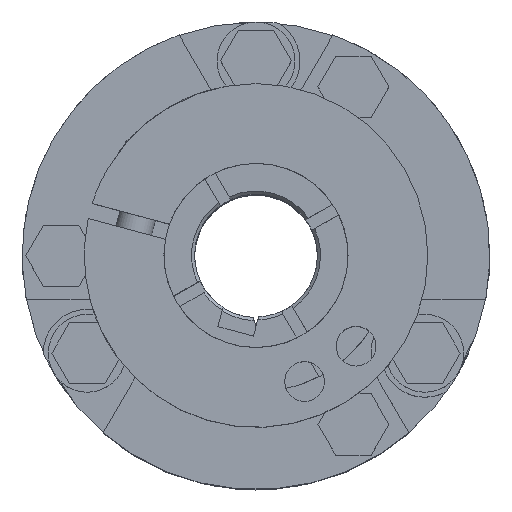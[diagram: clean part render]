
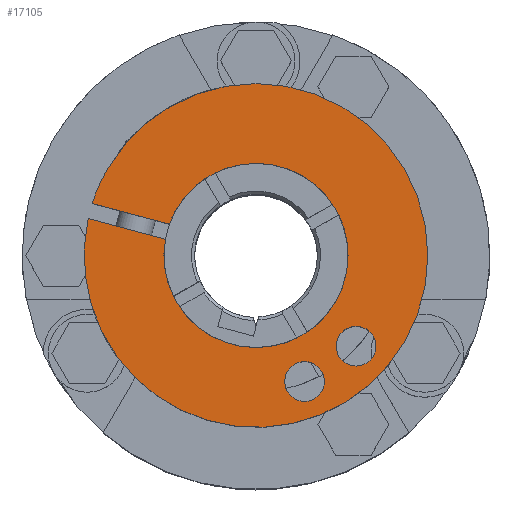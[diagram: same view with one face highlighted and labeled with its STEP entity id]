
A CAD part, top view. The second image highlights one B-rep face of the part: STEP entity #17105.
In plain terms, the highlighted planar face has unit normal (0, 0, 1).
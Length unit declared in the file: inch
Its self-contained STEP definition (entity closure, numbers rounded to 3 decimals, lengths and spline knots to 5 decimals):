
#1784 = CIRCLE ( 'NONE', #5146, 0.1275 ) ;
#1786 = CIRCLE ( 'NONE', #5155, 0.1275 ) ;
#1790 = CIRCLE ( 'NONE', #5177, 0.5905 ) ;
#1792 = CIRCLE ( 'NONE', #5185, 0.5905 ) ;
#1796 = CIRCLE ( 'NONE', #5191, 1.1025 ) ;
#1798 = CIRCLE ( 'NONE', #5190, 1.1025 ) ;
#1800 = CIRCLE ( 'NONE', #5200, 1.1025 ) ;
#1805 = CIRCLE ( 'NONE', #5204, 0.5905 ) ;
#1808 = CIRCLE ( 'NONE', #5210, 0.1275 ) ;
#1809 = CIRCLE ( 'NONE', #5212, 0.1275 ) ;
#5146 = AXIS2_PLACEMENT_3D ( 'NONE', #5443, #5444, #5445 ) ;
#5155 = AXIS2_PLACEMENT_3D ( 'NONE', #5455, #5456, #5457 ) ;
#5177 = AXIS2_PLACEMENT_3D ( 'NONE', #5557, #5558, #5559 ) ;
#5185 = AXIS2_PLACEMENT_3D ( 'NONE', #5566, #5570, #5571 ) ;
#5190 = AXIS2_PLACEMENT_3D ( 'NONE', #5789, #5790, #5791 ) ;
#5191 = AXIS2_PLACEMENT_3D ( 'NONE', #5746, #5747, #5748 ) ;
#5200 = AXIS2_PLACEMENT_3D ( 'NONE', #5798, #5802, #5803 ) ;
#5204 = AXIS2_PLACEMENT_3D ( 'NONE', #5825, #5826, #5827 ) ;
#5207 = VECTOR ( 'NONE', #5819, 39.37008 ) ;
#5210 = AXIS2_PLACEMENT_3D ( 'NONE', #5840, #5841, #5842 ) ;
#5211 = VECTOR ( 'NONE', #5831, 39.37008 ) ;
#5212 = AXIS2_PLACEMENT_3D ( 'NONE', #5843, #5844, #5845 ) ;
#5443 = CARTESIAN_POINT ( 'NONE',  ( 0.847, -0.183, 1.25 ) ) ;
#5444 = DIRECTION ( 'NONE',  ( 0., 0., 1. ) ) ;
#5445 = DIRECTION ( 'NONE',  ( 1., 0., 0. ) ) ;
#5455 = CARTESIAN_POINT ( 'NONE',  ( 0.674, -0.544, 1.25 ) ) ;
#5456 = DIRECTION ( 'NONE',  ( 0., 0., 1. ) ) ;
#5457 = DIRECTION ( 'NONE',  ( 1., 0., 0. ) ) ;
#5557 = CARTESIAN_POINT ( 'NONE',  ( 0., 0., 1.25 ) ) ;
#5558 = DIRECTION ( 'NONE',  ( 0., 0., -1. ) ) ;
#5559 = DIRECTION ( 'NONE',  ( 1., 0., 0. ) ) ;
#5566 = CARTESIAN_POINT ( 'NONE',  ( 0., 0., 1.25 ) ) ;
#5570 = DIRECTION ( 'NONE',  ( 0., 0., -1. ) ) ;
#5571 = DIRECTION ( 'NONE',  ( 1., 0., 0. ) ) ;
#5746 = CARTESIAN_POINT ( 'NONE',  ( 0., 0., 1.25 ) ) ;
#5747 = DIRECTION ( 'NONE',  ( 0., 0., 1. ) ) ;
#5748 = DIRECTION ( 'NONE',  ( 1., 0., 0. ) ) ;
#5789 = CARTESIAN_POINT ( 'NONE',  ( 0., 0., 1.25 ) ) ;
#5790 = DIRECTION ( 'NONE',  ( 0., 0., 1. ) ) ;
#5791 = DIRECTION ( 'NONE',  ( 1., 0., 0. ) ) ;
#5798 = CARTESIAN_POINT ( 'NONE',  ( 0., 0., 1.25 ) ) ;
#5802 = DIRECTION ( 'NONE',  ( 0., 0., 1. ) ) ;
#5803 = DIRECTION ( 'NONE',  ( 1., 0., 0. ) ) ;
#5817 = LINE ( 'NONE', #5818, #5207 ) ;
#5818 = CARTESIAN_POINT ( 'NONE',  ( -1.0509, -0.33335, 1.25 ) ) ;
#5819 = DIRECTION ( 'NONE',  ( -0.966, -0.259, 0. ) ) ;
#5825 = CARTESIAN_POINT ( 'NONE',  ( 0., 0., 1.25 ) ) ;
#5826 = DIRECTION ( 'NONE',  ( 0., 0., -1. ) ) ;
#5827 = DIRECTION ( 'NONE',  ( 1., 0., 0. ) ) ;
#5829 = LINE ( 'NONE', #5830, #5211 ) ;
#5830 = CARTESIAN_POINT ( 'NONE',  ( -1.07678, -0.23676, 1.25 ) ) ;
#5831 = DIRECTION ( 'NONE',  ( 0.966, 0.259, 0. ) ) ;
#5840 = CARTESIAN_POINT ( 'NONE',  ( 0.847, -0.183, 1.25 ) ) ;
#5841 = DIRECTION ( 'NONE',  ( 0., 0., 1. ) ) ;
#5842 = DIRECTION ( 'NONE',  ( 1., 0., 0. ) ) ;
#5843 = CARTESIAN_POINT ( 'NONE',  ( 0.674, -0.544, 1.25 ) ) ;
#5844 = DIRECTION ( 'NONE',  ( 0., 0., 1. ) ) ;
#5845 = DIRECTION ( 'NONE',  ( 1., 0., 0. ) ) ;
#8547 = ORIENTED_EDGE ( 'NONE', *, *, #15568, .F. ) ;
#8548 = ORIENTED_EDGE ( 'NONE', *, *, #15566, .F. ) ;
#8549 = ORIENTED_EDGE ( 'NONE', *, *, #15543, .T. ) ;
#8550 = ORIENTED_EDGE ( 'NONE', *, *, #15471, .F. ) ;
#8551 = ORIENTED_EDGE ( 'NONE', *, *, #15561, .T. ) ;
#8552 = ORIENTED_EDGE ( 'NONE', *, *, #15481, .F. ) ;
#8553 = ORIENTED_EDGE ( 'NONE', *, *, #15535, .T. ) ;
#8554 = ORIENTED_EDGE ( 'NONE', *, *, #15547, .T. ) ;
#8555 = ORIENTED_EDGE ( 'NONE', *, *, #15508, .T. ) ;
#8556 = ORIENTED_EDGE ( 'NONE', *, *, #15517, .T. ) ;
#8557 = ORIENTED_EDGE ( 'NONE', *, *, #15559, .T. ) ;
#8558 = ORIENTED_EDGE ( 'NONE', *, *, #15554, .T. ) ;
#9442 = VERTEX_POINT ( 'NONE', #20484 ) ;
#9443 = VERTEX_POINT ( 'NONE', #20485 ) ;
#9446 = VERTEX_POINT ( 'NONE', #20488 ) ;
#9447 = VERTEX_POINT ( 'NONE', #20489 ) ;
#9458 = VERTEX_POINT ( 'NONE', #20500 ) ;
#9459 = VERTEX_POINT ( 'NONE', #20501 ) ;
#9461 = VERTEX_POINT ( 'NONE', #20503 ) ;
#9468 = VERTEX_POINT ( 'NONE', #20510 ) ;
#9469 = VERTEX_POINT ( 'NONE', #20511 ) ;
#9471 = VERTEX_POINT ( 'NONE', #20513 ) ;
#9473 = VERTEX_POINT ( 'NONE', #20515 ) ;
#9474 = VERTEX_POINT ( 'NONE', #20516 ) ;
#9903 = EDGE_LOOP ( 'NONE', ( #8548, #8550 ) ) ;
#9904 = EDGE_LOOP ( 'NONE', ( #8547, #8552 ) ) ;
#9905 = EDGE_LOOP ( 'NONE', ( #8549, #8553, #8554, #8551, #8555, #8556, #8557, #8558 ) ) ;
#15471 = EDGE_CURVE ( 'NONE', #9442, #9443, #1784, .T. ) ;
#15481 = EDGE_CURVE ( 'NONE', #9446, #9447, #1786, .T. ) ;
#15508 = EDGE_CURVE ( 'NONE', #9459, #9458, #1790, .T. ) ;
#15517 = EDGE_CURVE ( 'NONE', #9458, #9461, #1792, .T. ) ;
#15535 = EDGE_CURVE ( 'NONE', #9469, #9468, #1796, .T. ) ;
#15543 = EDGE_CURVE ( 'NONE', #9471, #9469, #1798, .T. ) ;
#15547 = EDGE_CURVE ( 'NONE', #9468, #9473, #1800, .T. ) ;
#15554 = EDGE_CURVE ( 'NONE', #9474, #9471, #5817, .T. ) ;
#15559 = EDGE_CURVE ( 'NONE', #9461, #9474, #1805, .T. ) ;
#15561 = EDGE_CURVE ( 'NONE', #9473, #9459, #5829, .T. ) ;
#15566 = EDGE_CURVE ( 'NONE', #9443, #9442, #1808, .T. ) ;
#15568 = EDGE_CURVE ( 'NONE', #9447, #9446, #1809, .T. ) ;
#17105 = ADVANCED_FACE ( 'NONE', ( #18925, #18923, #18932 ), #23982, .T. ) ;
#18923 = FACE_BOUND ( 'NONE', #9904, .T. ) ;
#18925 = FACE_BOUND ( 'NONE', #9903, .T. ) ;
#18926 = AXIS2_PLACEMENT_3D ( 'NONE', #23983, #23984, #23985 ) ;
#18932 = FACE_OUTER_BOUND ( 'NONE', #9905, .T. ) ;
#20484 = CARTESIAN_POINT ( 'NONE',  ( 0.7195, -0.183, 1.25 ) ) ;
#20485 = CARTESIAN_POINT ( 'NONE',  ( 0.9745, -0.183, 1.25 ) ) ;
#20488 = CARTESIAN_POINT ( 'NONE',  ( 0.5465, -0.544, 1.25 ) ) ;
#20489 = CARTESIAN_POINT ( 'NONE',  ( 0.8015, -0.544, 1.25 ) ) ;
#20500 = CARTESIAN_POINT ( 'NONE',  ( -0.5905, 0., 1.25 ) ) ;
#20501 = CARTESIAN_POINT ( 'NONE',  ( -0.58127, -0.10399, 1.25 ) ) ;
#20503 = CARTESIAN_POINT ( 'NONE',  ( 0.5905, 0., 1.25 ) ) ;
#20510 = CARTESIAN_POINT ( 'NONE',  ( -1.1025, 0., 1.25 ) ) ;
#20511 = CARTESIAN_POINT ( 'NONE',  ( 1.1025, 0., 1.25 ) ) ;
#20513 = CARTESIAN_POINT ( 'NONE',  ( -1.0509, -0.33335, 1.25 ) ) ;
#20515 = CARTESIAN_POINT ( 'NONE',  ( -1.07678, -0.23676, 1.25 ) ) ;
#20516 = CARTESIAN_POINT ( 'NONE',  ( -0.55539, -0.20058, 1.25 ) ) ;
#23982 = PLANE ( 'NONE',  #18926 ) ;
#23983 = CARTESIAN_POINT ( 'NONE',  ( 0., 0., 1.25 ) ) ;
#23984 = DIRECTION ( 'NONE',  ( 0., 0., 1. ) ) ;
#23985 = DIRECTION ( 'NONE',  ( 1., 0., 0. ) ) ;
